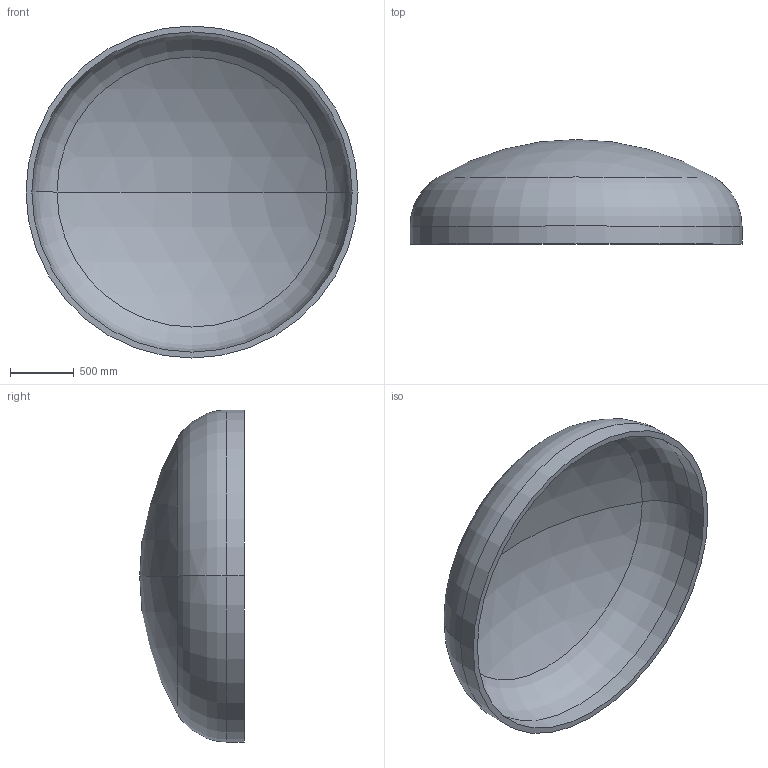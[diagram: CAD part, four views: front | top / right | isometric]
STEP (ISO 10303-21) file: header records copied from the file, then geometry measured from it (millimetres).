
FILE_DESCRIPTION (( 'STEP AP203' ), '1' );
FILE_NAME ('DIN 28013 Korbbogenform_-_Boden DIN 28013 - 2600 x 140 - I - s=46.step', '2016-07-01T16:13:51', ( '' ), ( '' ), 'SwSTEP 2.0', 'SolidWorks 2013', '' );
FILE_SCHEMA (( 'CONFIG_CONTROL_DESIGN' ));
Length unit declared in the file: millimetre
Products named in the file (1): DIN 28013 Korbbogenform_-_Boden DIN 28013 - 2600 x 140 - I - s=46
Bounding box: 2600 x 819.25 x 2600 mm (x, y, z)
Volume: 382058830.1 mm3; surface area: 16984766.6 mm2
Topology: 1 solids, 1 shells, 13 faces, 24 edges, 14 vertices
Faces by surface type: torus 4, cylinder 4, sphere 4, plane 1
Entity records: 407 total; most frequent: DIRECTION 72, CARTESIAN_POINT 52, ORIENTED_EDGE 48, AXIS2_PLACEMENT_3D 34, EDGE_CURVE 24, CIRCLE 20, VERTEX_POINT 14, EDGE_LOOP 14
